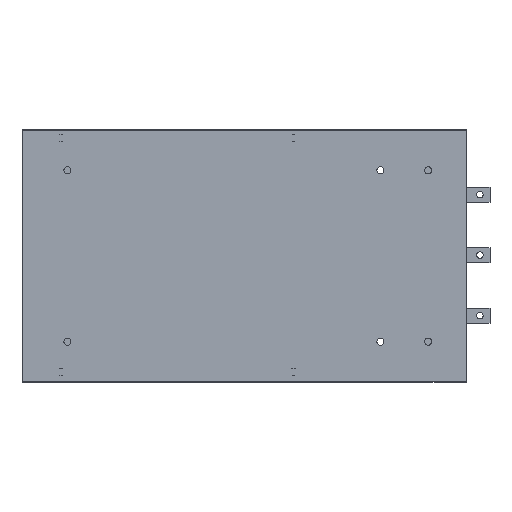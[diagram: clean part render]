
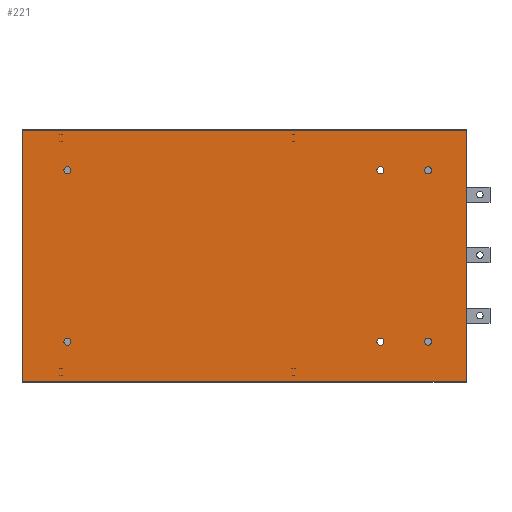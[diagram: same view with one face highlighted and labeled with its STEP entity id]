
A CAD part, front view. The second image highlights one B-rep face of the part: STEP entity #221.
In plain terms, the highlighted planar face has unit normal (0, -1, 0).
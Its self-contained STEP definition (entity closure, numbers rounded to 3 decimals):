
#221=ADVANCED_FACE('',(#3601,#3603,#3605,#3607,#3609,#3611,#3613),#3615,.T.);
#3601=FACE_BOUND('',#3602,.T.);
#3602=EDGE_LOOP('',(#6328,#6329,#6330,#6331));
#3603=FACE_BOUND('',#3604,.T.);
#3604=EDGE_LOOP('',(#6332));
#3605=FACE_BOUND('',#3606,.T.);
#3606=EDGE_LOOP('',(#6333));
#3607=FACE_BOUND('',#3608,.T.);
#3608=EDGE_LOOP('',(#6334));
#3609=FACE_BOUND('',#3610,.T.);
#3610=EDGE_LOOP('',(#6335));
#3611=FACE_BOUND('',#3612,.T.);
#3612=EDGE_LOOP('',(#6336));
#3613=FACE_BOUND('',#3614,.T.);
#3614=EDGE_LOOP('',(#6337));
#3615=PLANE('',#3616);
#3616=AXIS2_PLACEMENT_3D('',#3617,#3618,#3619);
#3617=CARTESIAN_POINT('',(764.726,-71.,-19.955));
#3618=DIRECTION('',(0.,-1.,0.));
#3619=DIRECTION('',(0.,0.,1.));
#6328=ORIENTED_EDGE('',*,*,#8416,.F.);
#6329=ORIENTED_EDGE('',*,*,#8421,.T.);
#6330=ORIENTED_EDGE('',*,*,#8418,.T.);
#6331=ORIENTED_EDGE('',*,*,#8422,.F.);
#6332=ORIENTED_EDGE('',*,*,#8423,.T.);
#6333=ORIENTED_EDGE('',*,*,#8424,.T.);
#6334=ORIENTED_EDGE('',*,*,#8425,.T.);
#6335=ORIENTED_EDGE('',*,*,#8426,.T.);
#6336=ORIENTED_EDGE('',*,*,#8427,.T.);
#6337=ORIENTED_EDGE('',*,*,#8428,.T.);
#8416=EDGE_CURVE('',#9483,#9485,#9486,.T.);
#8418=EDGE_CURVE('',#9488,#9489,#9490,.T.);
#8421=EDGE_CURVE('',#9483,#9488,#9493,.T.);
#8422=EDGE_CURVE('',#9485,#9489,#9494,.T.);
#8423=EDGE_CURVE('',#9495,#9495,#9496,.F.);
#8424=EDGE_CURVE('',#9497,#9497,#9498,.F.);
#8425=EDGE_CURVE('',#9499,#9499,#9500,.F.);
#8426=EDGE_CURVE('',#9501,#9501,#9502,.F.);
#8427=EDGE_CURVE('',#9503,#9503,#9504,.F.);
#8428=EDGE_CURVE('',#9505,#9505,#9506,.F.);
#9483=VERTEX_POINT('',#11332);
#9485=VERTEX_POINT('',#11337);
#9486=LINE('',#11338,#11339);
#9488=VERTEX_POINT('',#11345);
#9489=VERTEX_POINT('',#11346);
#9490=LINE('',#11347,#11348);
#9493=LINE('',#11358,#11359);
#9494=LINE('',#11361,#11362);
#9495=VERTEX_POINT('',#11364);
#9496=CIRCLE('',#11365,7.);
#9497=VERTEX_POINT('',#11369);
#9498=CIRCLE('',#11370,7.);
#9499=VERTEX_POINT('',#11374);
#9500=CIRCLE('',#11375,7.);
#9501=VERTEX_POINT('',#11379);
#9502=CIRCLE('',#11380,7.);
#9503=VERTEX_POINT('',#11384);
#9504=CIRCLE('',#11385,7.);
#9505=VERTEX_POINT('',#11389);
#9506=CIRCLE('',#11390,7.);
#11332=CARTESIAN_POINT('',(875.209,-71.,-19.955));
#11337=CARTESIAN_POINT('',(-6.2,-71.,-19.955));
#11338=CARTESIAN_POINT('',(875.209,-71.,-19.955));
#11339=VECTOR('',#11340,1.);
#11340=DIRECTION('',(-1.,0.,0.));
#11345=CARTESIAN_POINT('',(875.209,-71.,476.463));
#11346=CARTESIAN_POINT('',(-6.2,-71.,476.463));
#11347=CARTESIAN_POINT('',(875.209,-71.,476.463));
#11348=VECTOR('',#11349,1.);
#11349=DIRECTION('',(-1.,0.,0.));
#11358=CARTESIAN_POINT('',(875.209,-71.,-19.955));
#11359=VECTOR('',#11360,1.);
#11360=DIRECTION('',(0.,0.,1.));
#11361=CARTESIAN_POINT('',(-6.2,-71.,-19.955));
#11362=VECTOR('',#11363,1.);
#11363=DIRECTION('',(0.,0.,1.));
#11364=CARTESIAN_POINT('',(806.726,-71.,58.254));
#11365=AXIS2_PLACEMENT_3D('',#11366,#11367,#11368);
#11366=CARTESIAN_POINT('',(799.726,-71.,58.254));
#11367=DIRECTION('',(0.,-1.,0.));
#11368=DIRECTION('',(1.,0.,0.));
#11369=CARTESIAN_POINT('',(711.726,-71.,58.254));
#11370=AXIS2_PLACEMENT_3D('',#11371,#11372,#11373);
#11371=CARTESIAN_POINT('',(704.726,-71.,58.254));
#11372=DIRECTION('',(0.,-1.,0.));
#11373=DIRECTION('',(1.,0.,0.));
#11374=CARTESIAN_POINT('',(806.726,-71.,398.254));
#11375=AXIS2_PLACEMENT_3D('',#11376,#11377,#11378);
#11376=CARTESIAN_POINT('',(799.726,-71.,398.254));
#11377=DIRECTION('',(0.,-1.,0.));
#11378=DIRECTION('',(1.,0.,0.));
#11379=CARTESIAN_POINT('',(711.726,-71.,398.254));
#11380=AXIS2_PLACEMENT_3D('',#11381,#11382,#11383);
#11381=CARTESIAN_POINT('',(704.726,-71.,398.254));
#11382=DIRECTION('',(0.,-1.,0.));
#11383=DIRECTION('',(1.,0.,0.));
#11384=CARTESIAN_POINT('',(90.8,-71.,58.254));
#11385=AXIS2_PLACEMENT_3D('',#11386,#11387,#11388);
#11386=CARTESIAN_POINT('',(83.8,-71.,58.254));
#11387=DIRECTION('',(0.,-1.,0.));
#11388=DIRECTION('',(1.,0.,0.));
#11389=CARTESIAN_POINT('',(90.8,-71.,398.254));
#11390=AXIS2_PLACEMENT_3D('',#11391,#11392,#11393);
#11391=CARTESIAN_POINT('',(83.8,-71.,398.254));
#11392=DIRECTION('',(0.,-1.,0.));
#11393=DIRECTION('',(1.,0.,0.));
